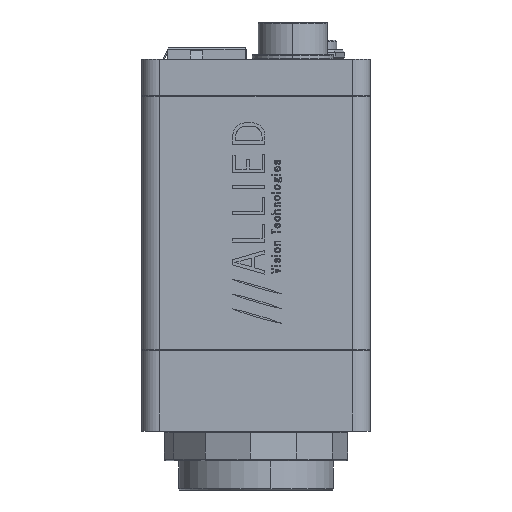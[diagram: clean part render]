
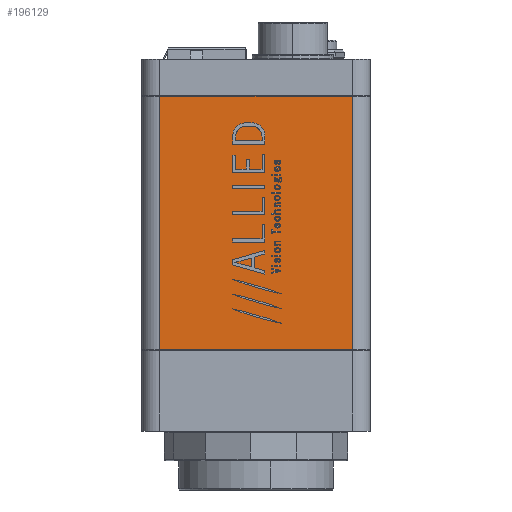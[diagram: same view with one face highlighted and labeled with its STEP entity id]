
A CAD part, left-side view. The second image highlights one B-rep face of the part: STEP entity #196129.
In plain terms, the highlighted planar face has unit normal (-1, 0, 0).
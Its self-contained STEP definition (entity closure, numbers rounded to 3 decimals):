
#6570 = EDGE_CURVE ( 'NONE', #87488, #188556, #166352, .T. ) ;
#6947 = CARTESIAN_POINT ( 'NONE',  ( -25.714, 16.558, 108.336 ) ) ;
#7200 = DIRECTION ( 'NONE',  ( 0., 0., 1. ) ) ;
#9261 = FACE_OUTER_BOUND ( 'NONE', #129055, .T. ) ;
#15665 = DIRECTION ( 'NONE',  ( 0., 0., 1. ) ) ;
#27221 = EDGE_CURVE ( 'NONE', #108469, #153410, #202405, .T. ) ;
#29959 = CARTESIAN_POINT ( 'NONE',  ( -25.714, -16.558, 0. ) ) ;
#39744 = CARTESIAN_POINT ( 'NONE',  ( -25.714, -16.558, 108.336 ) ) ;
#46962 = CARTESIAN_POINT ( 'NONE',  ( -25.714, 16.558, 43.65 ) ) ;
#59571 = ORIENTED_EDGE ( 'NONE', *, *, #27221, .F. ) ;
#67354 = LINE ( 'NONE', #6947, #105107 ) ;
#70811 = ORIENTED_EDGE ( 'NONE', *, *, #154838, .T. ) ;
#75300 = ORIENTED_EDGE ( 'NONE', *, *, #6570, .F. ) ;
#75489 = VECTOR ( 'NONE', #168200, 1000. ) ;
#75897 = CARTESIAN_POINT ( 'NONE',  ( -25.714, -16.558, 43.65 ) ) ;
#76524 = VECTOR ( 'NONE', #145620, 1000. ) ;
#87488 = VERTEX_POINT ( 'NONE', #29959 ) ;
#93414 = DIRECTION ( 'NONE',  ( 0., 1., 0. ) ) ;
#96166 = CARTESIAN_POINT ( 'NONE',  ( -25.714, -16.558, 0. ) ) ;
#101546 = EDGE_CURVE ( 'NONE', #188556, #108469, #67354, .T. ) ;
#102489 = AXIS2_PLACEMENT_3D ( 'NONE', #206077, #112561, #15665 ) ;
#105107 = VECTOR ( 'NONE', #7200, 1000. ) ;
#108469 = VERTEX_POINT ( 'NONE', #46962 ) ;
#108655 = ORIENTED_EDGE ( 'NONE', *, *, #101546, .F. ) ;
#112561 = DIRECTION ( 'NONE',  ( -1., 0., 0. ) ) ;
#124063 = VECTOR ( 'NONE', #93414, 1000. ) ;
#129055 = EDGE_LOOP ( 'NONE', ( #108655, #75300, #70811, #59571 ) ) ;
#142661 = CARTESIAN_POINT ( 'NONE',  ( -25.714, 16.558, 43.65 ) ) ;
#144071 = PLANE ( 'NONE',  #102489 ) ;
#145620 = DIRECTION ( 'NONE',  ( 0., -1., 0. ) ) ;
#153410 = VERTEX_POINT ( 'NONE', #75897 ) ;
#154838 = EDGE_CURVE ( 'NONE', #87488, #153410, #155635, .T. ) ;
#155635 = LINE ( 'NONE', #39744, #75489 ) ;
#166352 = LINE ( 'NONE', #96166, #124063 ) ;
#168200 = DIRECTION ( 'NONE',  ( 0., 0., 1. ) ) ;
#188556 = VERTEX_POINT ( 'NONE', #205649 ) ;
#196129 = ADVANCED_FACE ( 'NONE', ( #9261 ), #144071, .T. ) ;
#202405 = LINE ( 'NONE', #142661, #76524 ) ;
#205649 = CARTESIAN_POINT ( 'NONE',  ( -25.714, 16.558, 0. ) ) ;
#206077 = CARTESIAN_POINT ( 'NONE',  ( -25.714, 16.558, 108.336 ) ) ;
